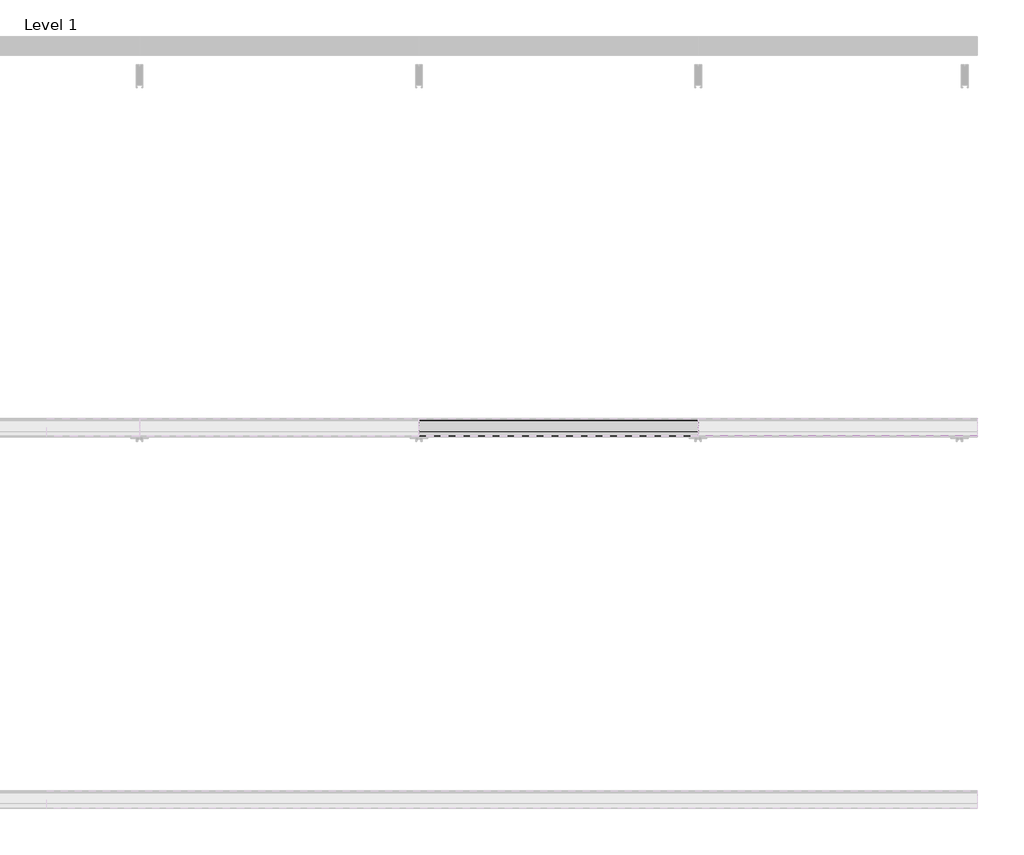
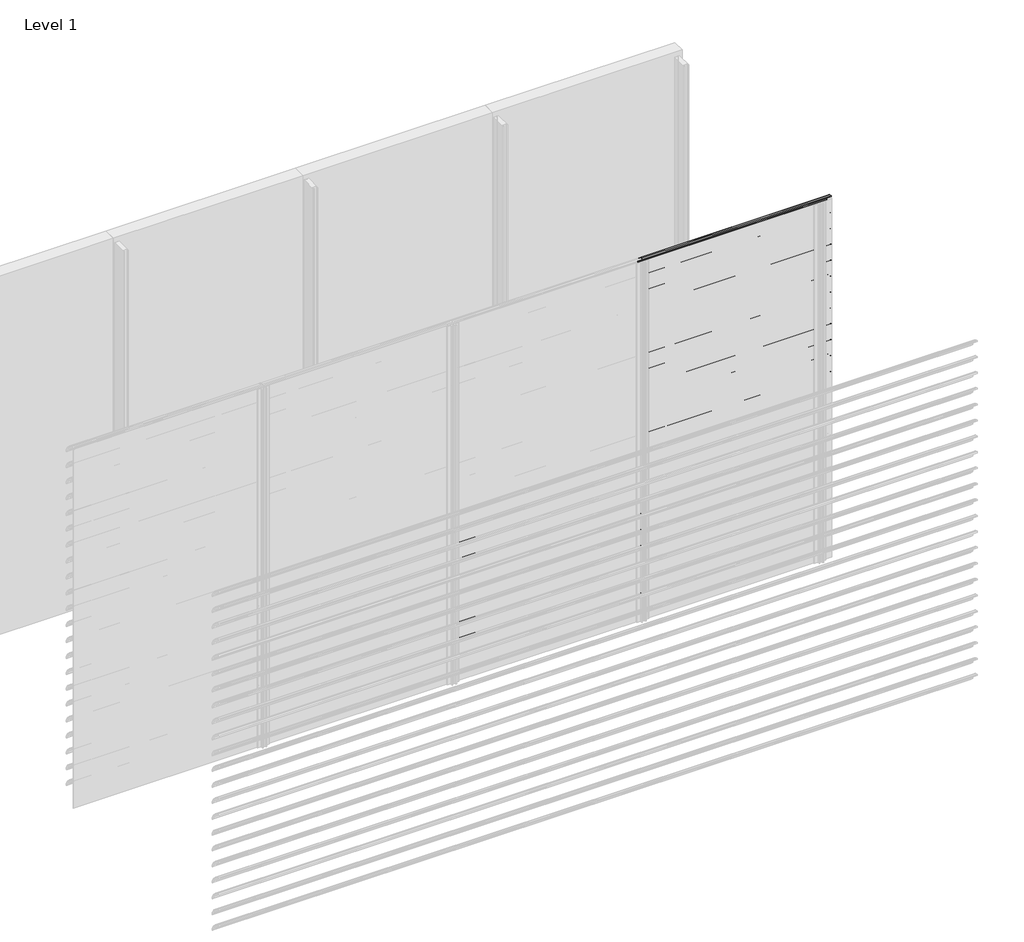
# One storey, part 7 of 57: 20 proxies.
"""IFC4 building model written with IfcOpenShell, lengths in millimetres."""

from ifc_helpers import new_model, si_unit, point, frame, frame_2d, origin, place, context, project, spatial, polyline, circle_curve, trimmed, segment, composite_curve, outline, extrude, element, save

model = new_model("IFC4")

# Units and contexts
model_context = context("Model", 3, world=origin())
ifc_project = project(units=[si_unit("LENGTHUNIT", "METRE", prefix="MILLI")], contexts=[model_context])

# Site, building, storey
site = spatial("IfcSite", under=ifc_project)
building = spatial("IfcBuilding", under=site)
storey = spatial("IfcBuildingStorey", under=building, Name="Level 1", Elevation=0.0)

# Proxies
placement = place(None, origin())
element("IfcBuildingElementProxy", 1, Name="Wall Sweeps", at=placement, inside=storey, context=model_context, shape_type="SweptSolid", body=[
    extrude(outline(composite_curve([segment(trimmed(circle_curve(frame_2d((-53993.7822526, 1154.4913792)), 4.2177474), [point((-53989.6985606, 1155.5462976))], [point((-53993.7822526, 1158.7091266))], False, "CARTESIAN"), True, "CONTINUOUS"), segment(trimmed(circle_curve(frame_2d((-54018.7150834, 1056.2536312)), 105.4456002), [point((-53993.7822526, 1158.7091266))], [point((-53971.7914298, 1150.6832099))], False, "CARTESIAN"), True, "CONTINUOUS"), segment(trimmed(circle_curve(frame_2d((-54061.7199745, 1002.0352476)), 173.7335887), [point((-53971.7914298, 1150.6832099))], [point((-53913.0720121, 1091.9637922))], False, "CARTESIAN"), True, "CONTINUOUS"), segment(trimmed(circle_curve(frame_2d((-54004.9297178, 1040.1860314)), 105.4456002), [point((-53913.0720121, 1091.9637922))], [point((-53903.6249616, 1069.4455765))], False, "CARTESIAN"), True, "CONTINUOUS"), segment(trimmed(circle_curve(frame_2d((-53907.809737, 1068.3307305)), 4.3307305), [point((-53903.6249616, 1069.4455765))], [point((-53909.0769196, 1064.189538))], False, "CARTESIAN"), True, "CONTINUOUS"), segment(polyline([(-53909.0769196, 1064.189538), (-53934.7401984, 1088.9722783)]), True, "CONTINUOUS"), segment(trimmed(circle_curve(frame_2d((-53931.3879574, 1091.2977626)), 4.079877), [point((-53934.7401984, 1088.9722783))], [point((-53930.7310597, 1095.3244091))], False, "CARTESIAN"), True, "CONTINUOUS"), segment(trimmed(circle_curve(frame_2d((-54014.6665585, 1073.2544323)), 86.7885467), [point((-53930.7310597, 1095.3244091))], [point((-53942.3028351, 1121.1683485))], True, "CARTESIAN"), True, "CONTINUOUS"), segment(polyline([(-53942.3028351, 1121.1683485), (-53940.7230099, 1123.9046861)]), True, "CONTINUOUS"), segment(trimmed(circle_curve(frame_2d((-54061.7199745, 1002.0352476)), 171.7335887), [point((-53940.7230099, 1123.9046861))], [point((-53972.7555872, 1148.9289618))], True, "CARTESIAN"), True, "CONTINUOUS"), segment(trimmed(circle_curve(frame_2d((-54018.7150834, 1056.2536312)), 103.4456002), [point((-53972.7555872, 1148.9289618))], [point((-53989.6985606, 1155.5462976))], True, "CARTESIAN"), True, "CONTINUOUS")], self_intersect=False)), frame((3000.0, 0.0, 0.0), z_axis=(1.0, 0.0, 0.0), x_axis=(0.0, 1.0, 0.0)), (0.0, 0.0, 1.0), 1500.0),
])
element("IfcBuildingElementProxy", 2, Name="Wall Sweeps", at=placement, inside=storey, context=model_context, shape_type="SweptSolid", body=[
    extrude(outline(composite_curve([segment(trimmed(circle_curve(frame_2d((-53993.7822526, 1021.4913792)), 4.2177474), [point((-53989.6985606, 1022.5462976))], [point((-53993.7822526, 1025.7091266))], False, "CARTESIAN"), True, "CONTINUOUS"), segment(trimmed(circle_curve(frame_2d((-54018.7150834, 923.2536312)), 105.4456002), [point((-53993.7822526, 1025.7091266))], [point((-53971.7914298, 1017.6832099))], False, "CARTESIAN"), True, "CONTINUOUS"), segment(trimmed(circle_curve(frame_2d((-54061.7199745, 869.0352476)), 173.7335887), [point((-53971.7914298, 1017.6832099))], [point((-53913.0720121, 958.9637922))], False, "CARTESIAN"), True, "CONTINUOUS"), segment(trimmed(circle_curve(frame_2d((-54004.9297178, 907.1860314)), 105.4456002), [point((-53913.0720121, 958.9637922))], [point((-53903.6249616, 936.4455765))], False, "CARTESIAN"), True, "CONTINUOUS"), segment(trimmed(circle_curve(frame_2d((-53907.809737, 935.3307305)), 4.3307305), [point((-53903.6249616, 936.4455765))], [point((-53909.0769196, 931.189538))], False, "CARTESIAN"), True, "CONTINUOUS"), segment(polyline([(-53909.0769196, 931.189538), (-53934.7401984, 955.9722783)]), True, "CONTINUOUS"), segment(trimmed(circle_curve(frame_2d((-53931.3879574, 958.2977626)), 4.079877), [point((-53934.7401984, 955.9722783))], [point((-53930.7310597, 962.3244091))], False, "CARTESIAN"), True, "CONTINUOUS"), segment(trimmed(circle_curve(frame_2d((-54014.6665585, 940.2544323)), 86.7885467), [point((-53930.7310597, 962.3244091))], [point((-53942.3028351, 988.1683485))], True, "CARTESIAN"), True, "CONTINUOUS"), segment(polyline([(-53942.3028351, 988.1683485), (-53940.7230099, 990.9046861)]), True, "CONTINUOUS"), segment(trimmed(circle_curve(frame_2d((-54061.7199745, 869.0352476)), 171.7335887), [point((-53940.7230099, 990.9046861))], [point((-53972.7555872, 1015.9289618))], True, "CARTESIAN"), True, "CONTINUOUS"), segment(trimmed(circle_curve(frame_2d((-54018.7150834, 923.2536312)), 103.4456002), [point((-53972.7555872, 1015.9289618))], [point((-53989.6985606, 1022.5462976))], True, "CARTESIAN"), True, "CONTINUOUS")], self_intersect=False)), frame((3000.0, 0.0, 0.0), z_axis=(1.0, 0.0, 0.0), x_axis=(0.0, 1.0, 0.0)), (0.0, 0.0, 1.0), 1500.0),
])
element("IfcBuildingElementProxy", 3, Name="Wall Sweeps", at=placement, inside=storey, context=model_context, shape_type="SweptSolid", body=[
    extrude(outline(composite_curve([segment(trimmed(circle_curve(frame_2d((-53993.7822526, 888.4913792)), 4.2177474), [point((-53989.6985606, 889.5462976))], [point((-53993.7822526, 892.7091266))], False, "CARTESIAN"), True, "CONTINUOUS"), segment(trimmed(circle_curve(frame_2d((-54018.7150834, 790.2536312)), 105.4456002), [point((-53993.7822526, 892.7091266))], [point((-53971.7914298, 884.6832099))], False, "CARTESIAN"), True, "CONTINUOUS"), segment(trimmed(circle_curve(frame_2d((-54061.7199745, 736.0352476)), 173.7335887), [point((-53971.7914298, 884.6832099))], [point((-53913.0720121, 825.9637922))], False, "CARTESIAN"), True, "CONTINUOUS"), segment(trimmed(circle_curve(frame_2d((-54004.9297178, 774.1860314)), 105.4456002), [point((-53913.0720121, 825.9637922))], [point((-53903.6249616, 803.4455765))], False, "CARTESIAN"), True, "CONTINUOUS"), segment(trimmed(circle_curve(frame_2d((-53907.809737, 802.3307305)), 4.3307305), [point((-53903.6249616, 803.4455765))], [point((-53909.0769196, 798.189538))], False, "CARTESIAN"), True, "CONTINUOUS"), segment(polyline([(-53909.0769196, 798.189538), (-53934.7401984, 822.9722783)]), True, "CONTINUOUS"), segment(trimmed(circle_curve(frame_2d((-53931.3879574, 825.2977626)), 4.079877), [point((-53934.7401984, 822.9722783))], [point((-53930.7310597, 829.3244091))], False, "CARTESIAN"), True, "CONTINUOUS"), segment(trimmed(circle_curve(frame_2d((-54014.6665585, 807.2544323)), 86.7885467), [point((-53930.7310597, 829.3244091))], [point((-53942.3028351, 855.1683485))], True, "CARTESIAN"), True, "CONTINUOUS"), segment(polyline([(-53942.3028351, 855.1683485), (-53940.7230099, 857.9046861)]), True, "CONTINUOUS"), segment(trimmed(circle_curve(frame_2d((-54061.7199745, 736.0352476)), 171.7335887), [point((-53940.7230099, 857.9046861))], [point((-53972.7555872, 882.9289618))], True, "CARTESIAN"), True, "CONTINUOUS"), segment(trimmed(circle_curve(frame_2d((-54018.7150834, 790.2536312)), 103.4456002), [point((-53972.7555872, 882.9289618))], [point((-53989.6985606, 889.5462976))], True, "CARTESIAN"), True, "CONTINUOUS")], self_intersect=False)), frame((3000.0, 0.0, 0.0), z_axis=(1.0, 0.0, 0.0), x_axis=(0.0, 1.0, 0.0)), (0.0, 0.0, 1.0), 1500.0),
])
element("IfcBuildingElementProxy", 4, Name="Wall Sweeps", at=placement, inside=storey, context=model_context, shape_type="SweptSolid", body=[
    extrude(outline(composite_curve([segment(trimmed(circle_curve(frame_2d((-53993.7822526, 755.4913792)), 4.2177474), [point((-53989.6985606, 756.5462976))], [point((-53993.7822526, 759.7091266))], False, "CARTESIAN"), True, "CONTINUOUS"), segment(trimmed(circle_curve(frame_2d((-54018.7150834, 657.2536312)), 105.4456002), [point((-53993.7822526, 759.7091266))], [point((-53971.7914298, 751.6832099))], False, "CARTESIAN"), True, "CONTINUOUS"), segment(trimmed(circle_curve(frame_2d((-54061.7199745, 603.0352476)), 173.7335887), [point((-53971.7914298, 751.6832099))], [point((-53913.0720121, 692.9637922))], False, "CARTESIAN"), True, "CONTINUOUS"), segment(trimmed(circle_curve(frame_2d((-54004.9297178, 641.1860314)), 105.4456002), [point((-53913.0720121, 692.9637922))], [point((-53903.6249616, 670.4455765))], False, "CARTESIAN"), True, "CONTINUOUS"), segment(trimmed(circle_curve(frame_2d((-53907.809737, 669.3307305)), 4.3307305), [point((-53903.6249616, 670.4455765))], [point((-53909.0769196, 665.189538))], False, "CARTESIAN"), True, "CONTINUOUS"), segment(polyline([(-53909.0769196, 665.189538), (-53934.7401984, 689.9722783)]), True, "CONTINUOUS"), segment(trimmed(circle_curve(frame_2d((-53931.3879574, 692.2977626)), 4.079877), [point((-53934.7401984, 689.9722783))], [point((-53930.7310597, 696.3244091))], False, "CARTESIAN"), True, "CONTINUOUS"), segment(trimmed(circle_curve(frame_2d((-54014.6665585, 674.2544323)), 86.7885467), [point((-53930.7310597, 696.3244091))], [point((-53942.3028351, 722.1683485))], True, "CARTESIAN"), True, "CONTINUOUS"), segment(polyline([(-53942.3028351, 722.1683485), (-53940.7230099, 724.9046861)]), True, "CONTINUOUS"), segment(trimmed(circle_curve(frame_2d((-54061.7199745, 603.0352476)), 171.7335887), [point((-53940.7230099, 724.9046861))], [point((-53972.7555872, 749.9289618))], True, "CARTESIAN"), True, "CONTINUOUS"), segment(trimmed(circle_curve(frame_2d((-54018.7150834, 657.2536312)), 103.4456002), [point((-53972.7555872, 749.9289618))], [point((-53989.6985606, 756.5462976))], True, "CARTESIAN"), True, "CONTINUOUS")], self_intersect=False)), frame((3000.0, 0.0, 0.0), z_axis=(1.0, 0.0, 0.0), x_axis=(0.0, 1.0, 0.0)), (0.0, 0.0, 1.0), 1500.0),
])
element("IfcBuildingElementProxy", 5, Name="Wall Sweeps", at=placement, inside=storey, context=model_context, shape_type="SweptSolid", body=[
    extrude(outline(composite_curve([segment(trimmed(circle_curve(frame_2d((-53993.7822526, 622.4913792)), 4.2177474), [point((-53989.6985606, 623.5462976))], [point((-53993.7822526, 626.7091266))], False, "CARTESIAN"), True, "CONTINUOUS"), segment(trimmed(circle_curve(frame_2d((-54018.7150834, 524.2536312)), 105.4456002), [point((-53993.7822526, 626.7091266))], [point((-53971.7914298, 618.6832099))], False, "CARTESIAN"), True, "CONTINUOUS"), segment(trimmed(circle_curve(frame_2d((-54061.7199745, 470.0352476)), 173.7335887), [point((-53971.7914298, 618.6832099))], [point((-53913.0720121, 559.9637922))], False, "CARTESIAN"), True, "CONTINUOUS"), segment(trimmed(circle_curve(frame_2d((-54004.9297178, 508.1860314)), 105.4456002), [point((-53913.0720121, 559.9637922))], [point((-53903.6249616, 537.4455765))], False, "CARTESIAN"), True, "CONTINUOUS"), segment(trimmed(circle_curve(frame_2d((-53907.809737, 536.3307305)), 4.3307305), [point((-53903.6249616, 537.4455765))], [point((-53909.0769196, 532.189538))], False, "CARTESIAN"), True, "CONTINUOUS"), segment(polyline([(-53909.0769196, 532.189538), (-53934.7401984, 556.9722783)]), True, "CONTINUOUS"), segment(trimmed(circle_curve(frame_2d((-53931.3879574, 559.2977626)), 4.079877), [point((-53934.7401984, 556.9722783))], [point((-53930.7310597, 563.3244091))], False, "CARTESIAN"), True, "CONTINUOUS"), segment(trimmed(circle_curve(frame_2d((-54014.6665585, 541.2544323)), 86.7885467), [point((-53930.7310597, 563.3244091))], [point((-53942.3028351, 589.1683485))], True, "CARTESIAN"), True, "CONTINUOUS"), segment(polyline([(-53942.3028351, 589.1683485), (-53940.7230099, 591.9046861)]), True, "CONTINUOUS"), segment(trimmed(circle_curve(frame_2d((-54061.7199745, 470.0352476)), 171.7335887), [point((-53940.7230099, 591.9046861))], [point((-53972.7555872, 616.9289618))], True, "CARTESIAN"), True, "CONTINUOUS"), segment(trimmed(circle_curve(frame_2d((-54018.7150834, 524.2536312)), 103.4456002), [point((-53972.7555872, 616.9289618))], [point((-53989.6985606, 623.5462976))], True, "CARTESIAN"), True, "CONTINUOUS")], self_intersect=False)), frame((3000.0, 0.0, 0.0), z_axis=(1.0, 0.0, 0.0), x_axis=(0.0, 1.0, 0.0)), (0.0, 0.0, 1.0), 1500.0),
])
element("IfcBuildingElementProxy", 6, Name="Wall Sweeps", at=placement, inside=storey, context=model_context, shape_type="SweptSolid", body=[
    extrude(outline(composite_curve([segment(trimmed(circle_curve(frame_2d((-53993.7822526, 489.4913792)), 4.2177474), [point((-53989.6985606, 490.5462976))], [point((-53993.7822526, 493.7091266))], False, "CARTESIAN"), True, "CONTINUOUS"), segment(trimmed(circle_curve(frame_2d((-54018.7150834, 391.2536312)), 105.4456002), [point((-53993.7822526, 493.7091266))], [point((-53971.7914298, 485.6832099))], False, "CARTESIAN"), True, "CONTINUOUS"), segment(trimmed(circle_curve(frame_2d((-54061.7199745, 337.0352476)), 173.7335887), [point((-53971.7914298, 485.6832099))], [point((-53913.0720121, 426.9637922))], False, "CARTESIAN"), True, "CONTINUOUS"), segment(trimmed(circle_curve(frame_2d((-54004.9297178, 375.1860314)), 105.4456002), [point((-53913.0720121, 426.9637922))], [point((-53903.6249616, 404.4455765))], False, "CARTESIAN"), True, "CONTINUOUS"), segment(trimmed(circle_curve(frame_2d((-53907.809737, 403.3307305)), 4.3307305), [point((-53903.6249616, 404.4455765))], [point((-53909.0769196, 399.189538))], False, "CARTESIAN"), True, "CONTINUOUS"), segment(polyline([(-53909.0769196, 399.189538), (-53934.7401984, 423.9722783)]), True, "CONTINUOUS"), segment(trimmed(circle_curve(frame_2d((-53931.3879574, 426.2977626)), 4.079877), [point((-53934.7401984, 423.9722783))], [point((-53930.7310597, 430.3244091))], False, "CARTESIAN"), True, "CONTINUOUS"), segment(trimmed(circle_curve(frame_2d((-54014.6665585, 408.2544323)), 86.7885467), [point((-53930.7310597, 430.3244091))], [point((-53942.3028351, 456.1683485))], True, "CARTESIAN"), True, "CONTINUOUS"), segment(polyline([(-53942.3028351, 456.1683485), (-53940.7230099, 458.9046861)]), True, "CONTINUOUS"), segment(trimmed(circle_curve(frame_2d((-54061.7199745, 337.0352476)), 171.7335887), [point((-53940.7230099, 458.9046861))], [point((-53972.7555872, 483.9289618))], True, "CARTESIAN"), True, "CONTINUOUS"), segment(trimmed(circle_curve(frame_2d((-54018.7150834, 391.2536312)), 103.4456002), [point((-53972.7555872, 483.9289618))], [point((-53989.6985606, 490.5462976))], True, "CARTESIAN"), True, "CONTINUOUS")], self_intersect=False)), frame((3000.0, 0.0, 0.0), z_axis=(1.0, 0.0, 0.0), x_axis=(0.0, 1.0, 0.0)), (0.0, 0.0, 1.0), 1500.0),
])
element("IfcBuildingElementProxy", 7, Name="Wall Sweeps", at=placement, inside=storey, context=model_context, shape_type="SweptSolid", body=[
    extrude(outline(composite_curve([segment(trimmed(circle_curve(frame_2d((-53993.7822526, 356.4913792)), 4.2177474), [point((-53989.6985606, 357.5462976))], [point((-53993.7822526, 360.7091266))], False, "CARTESIAN"), True, "CONTINUOUS"), segment(trimmed(circle_curve(frame_2d((-54018.7150834, 258.2536312)), 105.4456002), [point((-53993.7822526, 360.7091266))], [point((-53971.7914298, 352.6832099))], False, "CARTESIAN"), True, "CONTINUOUS"), segment(trimmed(circle_curve(frame_2d((-54061.7199745, 204.0352476)), 173.7335887), [point((-53971.7914298, 352.6832099))], [point((-53913.0720121, 293.9637922))], False, "CARTESIAN"), True, "CONTINUOUS"), segment(trimmed(circle_curve(frame_2d((-54004.9297178, 242.1860314)), 105.4456002), [point((-53913.0720121, 293.9637922))], [point((-53903.6249616, 271.4455765))], False, "CARTESIAN"), True, "CONTINUOUS"), segment(trimmed(circle_curve(frame_2d((-53907.809737, 270.3307305)), 4.3307305), [point((-53903.6249616, 271.4455765))], [point((-53909.0769196, 266.189538))], False, "CARTESIAN"), True, "CONTINUOUS"), segment(polyline([(-53909.0769196, 266.189538), (-53934.7401984, 290.9722783)]), True, "CONTINUOUS"), segment(trimmed(circle_curve(frame_2d((-53931.3879574, 293.2977626)), 4.079877), [point((-53934.7401984, 290.9722783))], [point((-53930.7310597, 297.3244091))], False, "CARTESIAN"), True, "CONTINUOUS"), segment(trimmed(circle_curve(frame_2d((-54014.6665585, 275.2544323)), 86.7885467), [point((-53930.7310597, 297.3244091))], [point((-53942.3028351, 323.1683485))], True, "CARTESIAN"), True, "CONTINUOUS"), segment(polyline([(-53942.3028351, 323.1683485), (-53940.7230099, 325.9046861)]), True, "CONTINUOUS"), segment(trimmed(circle_curve(frame_2d((-54061.7199745, 204.0352476)), 171.7335887), [point((-53940.7230099, 325.9046861))], [point((-53972.7555872, 350.9289618))], True, "CARTESIAN"), True, "CONTINUOUS"), segment(trimmed(circle_curve(frame_2d((-54018.7150834, 258.2536312)), 103.4456002), [point((-53972.7555872, 350.9289618))], [point((-53989.6985606, 357.5462976))], True, "CARTESIAN"), True, "CONTINUOUS")], self_intersect=False)), frame((3000.0, 0.0, 0.0), z_axis=(1.0, 0.0, 0.0), x_axis=(0.0, 1.0, 0.0)), (0.0, 0.0, 1.0), 1500.0),
])
element("IfcBuildingElementProxy", 8, Name="Wall Sweeps", at=placement, inside=storey, context=model_context, shape_type="SweptSolid", body=[
    extrude(outline(composite_curve([segment(trimmed(circle_curve(frame_2d((-53993.7822526, 223.4913792)), 4.2177474), [point((-53989.6985606, 224.5462976))], [point((-53993.7822526, 227.7091266))], False, "CARTESIAN"), True, "CONTINUOUS"), segment(trimmed(circle_curve(frame_2d((-54018.7150834, 125.2536312)), 105.4456002), [point((-53993.7822526, 227.7091266))], [point((-53971.7914298, 219.6832099))], False, "CARTESIAN"), True, "CONTINUOUS"), segment(trimmed(circle_curve(frame_2d((-54061.7199745, 71.0352476)), 173.7335887), [point((-53971.7914298, 219.6832099))], [point((-53913.0720121, 160.9637922))], False, "CARTESIAN"), True, "CONTINUOUS"), segment(trimmed(circle_curve(frame_2d((-54004.9297178, 109.1860314)), 105.4456002), [point((-53913.0720121, 160.9637922))], [point((-53903.6249616, 138.4455765))], False, "CARTESIAN"), True, "CONTINUOUS"), segment(trimmed(circle_curve(frame_2d((-53907.809737, 137.3307305)), 4.3307305), [point((-53903.6249616, 138.4455765))], [point((-53909.0769196, 133.189538))], False, "CARTESIAN"), True, "CONTINUOUS"), segment(polyline([(-53909.0769196, 133.189538), (-53934.7401984, 157.9722783)]), True, "CONTINUOUS"), segment(trimmed(circle_curve(frame_2d((-53931.3879574, 160.2977626)), 4.079877), [point((-53934.7401984, 157.9722783))], [point((-53930.7310597, 164.3244091))], False, "CARTESIAN"), True, "CONTINUOUS"), segment(trimmed(circle_curve(frame_2d((-54014.6665585, 142.2544323)), 86.7885467), [point((-53930.7310597, 164.3244091))], [point((-53942.3028351, 190.1683485))], True, "CARTESIAN"), True, "CONTINUOUS"), segment(polyline([(-53942.3028351, 190.1683485), (-53940.7230099, 192.9046861)]), True, "CONTINUOUS"), segment(trimmed(circle_curve(frame_2d((-54061.7199745, 71.0352476)), 171.7335887), [point((-53940.7230099, 192.9046861))], [point((-53972.7555872, 217.9289618))], True, "CARTESIAN"), True, "CONTINUOUS"), segment(trimmed(circle_curve(frame_2d((-54018.7150834, 125.2536312)), 103.4456002), [point((-53972.7555872, 217.9289618))], [point((-53989.6985606, 224.5462976))], True, "CARTESIAN"), True, "CONTINUOUS")], self_intersect=False)), frame((3000.0, 0.0, 0.0), z_axis=(1.0, 0.0, 0.0), x_axis=(0.0, 1.0, 0.0)), (0.0, 0.0, 1.0), 1500.0),
])
element("IfcBuildingElementProxy", 9, Name="Wall Sweeps", at=placement, inside=storey, context=model_context, shape_type="SweptSolid", body=[
    extrude(outline(composite_curve([segment(trimmed(circle_curve(frame_2d((-53993.7822526, 3016.4913792)), 4.2177474), [point((-53989.6985606, 3017.5462976))], [point((-53993.7822526, 3020.7091266))], False, "CARTESIAN"), True, "CONTINUOUS"), segment(trimmed(circle_curve(frame_2d((-54018.7150834, 2918.2536312)), 105.4456002), [point((-53993.7822526, 3020.7091266))], [point((-53971.7914298, 3012.6832099))], False, "CARTESIAN"), True, "CONTINUOUS"), segment(trimmed(circle_curve(frame_2d((-54061.7199745, 2864.0352476)), 173.7335887), [point((-53971.7914298, 3012.6832099))], [point((-53913.0720121, 2953.9637922))], False, "CARTESIAN"), True, "CONTINUOUS"), segment(trimmed(circle_curve(frame_2d((-54004.9297178, 2902.1860314)), 105.4456002), [point((-53913.0720121, 2953.9637922))], [point((-53903.6249616, 2931.4455765))], False, "CARTESIAN"), True, "CONTINUOUS"), segment(trimmed(circle_curve(frame_2d((-53907.809737, 2930.3307305)), 4.3307305), [point((-53903.6249616, 2931.4455765))], [point((-53909.0769196, 2926.189538))], False, "CARTESIAN"), True, "CONTINUOUS"), segment(polyline([(-53909.0769196, 2926.189538), (-53934.7401984, 2950.9722783)]), True, "CONTINUOUS"), segment(trimmed(circle_curve(frame_2d((-53931.3879574, 2953.2977626)), 4.079877), [point((-53934.7401984, 2950.9722783))], [point((-53930.7310597, 2957.3244091))], False, "CARTESIAN"), True, "CONTINUOUS"), segment(trimmed(circle_curve(frame_2d((-54014.6665585, 2935.2544323)), 86.7885467), [point((-53930.7310597, 2957.3244091))], [point((-53942.3028351, 2983.1683485))], True, "CARTESIAN"), True, "CONTINUOUS"), segment(polyline([(-53942.3028351, 2983.1683485), (-53940.7230099, 2985.9046861)]), True, "CONTINUOUS"), segment(trimmed(circle_curve(frame_2d((-54061.7199745, 2864.0352476)), 171.7335887), [point((-53940.7230099, 2985.9046861))], [point((-53972.7555872, 3010.9289618))], True, "CARTESIAN"), True, "CONTINUOUS"), segment(trimmed(circle_curve(frame_2d((-54018.7150834, 2918.2536312)), 103.4456002), [point((-53972.7555872, 3010.9289618))], [point((-53989.6985606, 3017.5462976))], True, "CARTESIAN"), True, "CONTINUOUS")], self_intersect=False)), frame((4500.0, 0.0, 0.0), z_axis=(1.0, 0.0, 0.0), x_axis=(0.0, 1.0, 0.0)), (0.0, 0.0, 1.0), 1500.0),
])
element("IfcBuildingElementProxy", 10, Name="Wall Sweeps", at=placement, inside=storey, context=model_context, shape_type="SweptSolid", body=[
    extrude(outline(composite_curve([segment(trimmed(circle_curve(frame_2d((-53993.7822526, 2883.4913792)), 4.2177474), [point((-53989.6985606, 2884.5462976))], [point((-53993.7822526, 2887.7091266))], False, "CARTESIAN"), True, "CONTINUOUS"), segment(trimmed(circle_curve(frame_2d((-54018.7150834, 2785.2536312)), 105.4456002), [point((-53993.7822526, 2887.7091266))], [point((-53971.7914298, 2879.6832099))], False, "CARTESIAN"), True, "CONTINUOUS"), segment(trimmed(circle_curve(frame_2d((-54061.7199745, 2731.0352476)), 173.7335887), [point((-53971.7914298, 2879.6832099))], [point((-53913.0720121, 2820.9637922))], False, "CARTESIAN"), True, "CONTINUOUS"), segment(trimmed(circle_curve(frame_2d((-54004.9297178, 2769.1860314)), 105.4456002), [point((-53913.0720121, 2820.9637922))], [point((-53903.6249616, 2798.4455765))], False, "CARTESIAN"), True, "CONTINUOUS"), segment(trimmed(circle_curve(frame_2d((-53907.809737, 2797.3307305)), 4.3307305), [point((-53903.6249616, 2798.4455765))], [point((-53909.0769196, 2793.189538))], False, "CARTESIAN"), True, "CONTINUOUS"), segment(polyline([(-53909.0769196, 2793.189538), (-53934.7401984, 2817.9722783)]), True, "CONTINUOUS"), segment(trimmed(circle_curve(frame_2d((-53931.3879574, 2820.2977626)), 4.079877), [point((-53934.7401984, 2817.9722783))], [point((-53930.7310597, 2824.3244091))], False, "CARTESIAN"), True, "CONTINUOUS"), segment(trimmed(circle_curve(frame_2d((-54014.6665585, 2802.2544323)), 86.7885467), [point((-53930.7310597, 2824.3244091))], [point((-53942.3028351, 2850.1683485))], True, "CARTESIAN"), True, "CONTINUOUS"), segment(polyline([(-53942.3028351, 2850.1683485), (-53940.7230099, 2852.9046861)]), True, "CONTINUOUS"), segment(trimmed(circle_curve(frame_2d((-54061.7199745, 2731.0352476)), 171.7335887), [point((-53940.7230099, 2852.9046861))], [point((-53972.7555872, 2877.9289618))], True, "CARTESIAN"), True, "CONTINUOUS"), segment(trimmed(circle_curve(frame_2d((-54018.7150834, 2785.2536312)), 103.4456002), [point((-53972.7555872, 2877.9289618))], [point((-53989.6985606, 2884.5462976))], True, "CARTESIAN"), True, "CONTINUOUS")], self_intersect=False)), frame((4500.0, 0.0, 0.0), z_axis=(1.0, 0.0, 0.0), x_axis=(0.0, 1.0, 0.0)), (0.0, 0.0, 1.0), 1500.0),
])
element("IfcBuildingElementProxy", 11, Name="Wall Sweeps", at=placement, inside=storey, context=model_context, shape_type="SweptSolid", body=[
    extrude(outline(composite_curve([segment(trimmed(circle_curve(frame_2d((-53993.7822526, 2750.4913792)), 4.2177474), [point((-53989.6985606, 2751.5462976))], [point((-53993.7822526, 2754.7091266))], False, "CARTESIAN"), True, "CONTINUOUS"), segment(trimmed(circle_curve(frame_2d((-54018.7150834, 2652.2536312)), 105.4456002), [point((-53993.7822526, 2754.7091266))], [point((-53971.7914298, 2746.6832099))], False, "CARTESIAN"), True, "CONTINUOUS"), segment(trimmed(circle_curve(frame_2d((-54061.7199745, 2598.0352476)), 173.7335887), [point((-53971.7914298, 2746.6832099))], [point((-53913.0720121, 2687.9637922))], False, "CARTESIAN"), True, "CONTINUOUS"), segment(trimmed(circle_curve(frame_2d((-54004.9297178, 2636.1860314)), 105.4456002), [point((-53913.0720121, 2687.9637922))], [point((-53903.6249616, 2665.4455765))], False, "CARTESIAN"), True, "CONTINUOUS"), segment(trimmed(circle_curve(frame_2d((-53907.809737, 2664.3307305)), 4.3307305), [point((-53903.6249616, 2665.4455765))], [point((-53909.0769196, 2660.189538))], False, "CARTESIAN"), True, "CONTINUOUS"), segment(polyline([(-53909.0769196, 2660.189538), (-53934.7401984, 2684.9722783)]), True, "CONTINUOUS"), segment(trimmed(circle_curve(frame_2d((-53931.3879574, 2687.2977626)), 4.079877), [point((-53934.7401984, 2684.9722783))], [point((-53930.7310597, 2691.3244091))], False, "CARTESIAN"), True, "CONTINUOUS"), segment(trimmed(circle_curve(frame_2d((-54014.6665585, 2669.2544323)), 86.7885467), [point((-53930.7310597, 2691.3244091))], [point((-53942.3028351, 2717.1683485))], True, "CARTESIAN"), True, "CONTINUOUS"), segment(polyline([(-53942.3028351, 2717.1683485), (-53940.7230099, 2719.9046861)]), True, "CONTINUOUS"), segment(trimmed(circle_curve(frame_2d((-54061.7199745, 2598.0352476)), 171.7335887), [point((-53940.7230099, 2719.9046861))], [point((-53972.7555872, 2744.9289618))], True, "CARTESIAN"), True, "CONTINUOUS"), segment(trimmed(circle_curve(frame_2d((-54018.7150834, 2652.2536312)), 103.4456002), [point((-53972.7555872, 2744.9289618))], [point((-53989.6985606, 2751.5462976))], True, "CARTESIAN"), True, "CONTINUOUS")], self_intersect=False)), frame((4500.0, 0.0, 0.0), z_axis=(1.0, 0.0, 0.0), x_axis=(0.0, 1.0, 0.0)), (0.0, 0.0, 1.0), 1500.0),
])
element("IfcBuildingElementProxy", 12, Name="Wall Sweeps", at=placement, inside=storey, context=model_context, shape_type="SweptSolid", body=[
    extrude(outline(composite_curve([segment(trimmed(circle_curve(frame_2d((-53993.7822526, 2617.4913792)), 4.2177474), [point((-53989.6985606, 2618.5462976))], [point((-53993.7822526, 2621.7091266))], False, "CARTESIAN"), True, "CONTINUOUS"), segment(trimmed(circle_curve(frame_2d((-54018.7150834, 2519.2536312)), 105.4456002), [point((-53993.7822526, 2621.7091266))], [point((-53971.7914298, 2613.6832099))], False, "CARTESIAN"), True, "CONTINUOUS"), segment(trimmed(circle_curve(frame_2d((-54061.7199745, 2465.0352476)), 173.7335887), [point((-53971.7914298, 2613.6832099))], [point((-53913.0720121, 2554.9637922))], False, "CARTESIAN"), True, "CONTINUOUS"), segment(trimmed(circle_curve(frame_2d((-54004.9297178, 2503.1860314)), 105.4456002), [point((-53913.0720121, 2554.9637922))], [point((-53903.6249616, 2532.4455765))], False, "CARTESIAN"), True, "CONTINUOUS"), segment(trimmed(circle_curve(frame_2d((-53907.809737, 2531.3307305)), 4.3307305), [point((-53903.6249616, 2532.4455765))], [point((-53909.0769196, 2527.189538))], False, "CARTESIAN"), True, "CONTINUOUS"), segment(polyline([(-53909.0769196, 2527.189538), (-53934.7401984, 2551.9722783)]), True, "CONTINUOUS"), segment(trimmed(circle_curve(frame_2d((-53931.3879574, 2554.2977626)), 4.079877), [point((-53934.7401984, 2551.9722783))], [point((-53930.7310597, 2558.3244091))], False, "CARTESIAN"), True, "CONTINUOUS"), segment(trimmed(circle_curve(frame_2d((-54014.6665585, 2536.2544323)), 86.7885467), [point((-53930.7310597, 2558.3244091))], [point((-53942.3028351, 2584.1683485))], True, "CARTESIAN"), True, "CONTINUOUS"), segment(polyline([(-53942.3028351, 2584.1683485), (-53940.7230099, 2586.9046861)]), True, "CONTINUOUS"), segment(trimmed(circle_curve(frame_2d((-54061.7199745, 2465.0352476)), 171.7335887), [point((-53940.7230099, 2586.9046861))], [point((-53972.7555872, 2611.9289618))], True, "CARTESIAN"), True, "CONTINUOUS"), segment(trimmed(circle_curve(frame_2d((-54018.7150834, 2519.2536312)), 103.4456002), [point((-53972.7555872, 2611.9289618))], [point((-53989.6985606, 2618.5462976))], True, "CARTESIAN"), True, "CONTINUOUS")], self_intersect=False)), frame((4500.0, 0.0, 0.0), z_axis=(1.0, 0.0, 0.0), x_axis=(0.0, 1.0, 0.0)), (0.0, 0.0, 1.0), 1500.0),
])
element("IfcBuildingElementProxy", 13, Name="Wall Sweeps", at=placement, inside=storey, context=model_context, shape_type="SweptSolid", body=[
    extrude(outline(composite_curve([segment(trimmed(circle_curve(frame_2d((-53993.7822526, 2484.4913792)), 4.2177474), [point((-53989.6985606, 2485.5462976))], [point((-53993.7822526, 2488.7091266))], False, "CARTESIAN"), True, "CONTINUOUS"), segment(trimmed(circle_curve(frame_2d((-54018.7150834, 2386.2536312)), 105.4456002), [point((-53993.7822526, 2488.7091266))], [point((-53971.7914298, 2480.6832099))], False, "CARTESIAN"), True, "CONTINUOUS"), segment(trimmed(circle_curve(frame_2d((-54061.7199745, 2332.0352476)), 173.7335887), [point((-53971.7914298, 2480.6832099))], [point((-53913.0720121, 2421.9637922))], False, "CARTESIAN"), True, "CONTINUOUS"), segment(trimmed(circle_curve(frame_2d((-54004.9297178, 2370.1860314)), 105.4456002), [point((-53913.0720121, 2421.9637922))], [point((-53903.6249616, 2399.4455765))], False, "CARTESIAN"), True, "CONTINUOUS"), segment(trimmed(circle_curve(frame_2d((-53907.809737, 2398.3307305)), 4.3307305), [point((-53903.6249616, 2399.4455765))], [point((-53909.0769196, 2394.189538))], False, "CARTESIAN"), True, "CONTINUOUS"), segment(polyline([(-53909.0769196, 2394.189538), (-53934.7401984, 2418.9722783)]), True, "CONTINUOUS"), segment(trimmed(circle_curve(frame_2d((-53931.3879574, 2421.2977626)), 4.079877), [point((-53934.7401984, 2418.9722783))], [point((-53930.7310597, 2425.3244091))], False, "CARTESIAN"), True, "CONTINUOUS"), segment(trimmed(circle_curve(frame_2d((-54014.6665585, 2403.2544323)), 86.7885467), [point((-53930.7310597, 2425.3244091))], [point((-53942.3028351, 2451.1683485))], True, "CARTESIAN"), True, "CONTINUOUS"), segment(polyline([(-53942.3028351, 2451.1683485), (-53940.7230099, 2453.9046861)]), True, "CONTINUOUS"), segment(trimmed(circle_curve(frame_2d((-54061.7199745, 2332.0352476)), 171.7335887), [point((-53940.7230099, 2453.9046861))], [point((-53972.7555872, 2478.9289618))], True, "CARTESIAN"), True, "CONTINUOUS"), segment(trimmed(circle_curve(frame_2d((-54018.7150834, 2386.2536312)), 103.4456002), [point((-53972.7555872, 2478.9289618))], [point((-53989.6985606, 2485.5462976))], True, "CARTESIAN"), True, "CONTINUOUS")], self_intersect=False)), frame((4500.0, 0.0, 0.0), z_axis=(1.0, 0.0, 0.0), x_axis=(0.0, 1.0, 0.0)), (0.0, 0.0, 1.0), 1500.0),
])
element("IfcBuildingElementProxy", 14, Name="Wall Sweeps", at=placement, inside=storey, context=model_context, shape_type="SweptSolid", body=[
    extrude(outline(composite_curve([segment(trimmed(circle_curve(frame_2d((-53993.7822526, 2351.4913792)), 4.2177474), [point((-53989.6985606, 2352.5462976))], [point((-53993.7822526, 2355.7091266))], False, "CARTESIAN"), True, "CONTINUOUS"), segment(trimmed(circle_curve(frame_2d((-54018.7150834, 2253.2536312)), 105.4456002), [point((-53993.7822526, 2355.7091266))], [point((-53971.7914298, 2347.6832099))], False, "CARTESIAN"), True, "CONTINUOUS"), segment(trimmed(circle_curve(frame_2d((-54061.7199745, 2199.0352476)), 173.7335887), [point((-53971.7914298, 2347.6832099))], [point((-53913.0720121, 2288.9637922))], False, "CARTESIAN"), True, "CONTINUOUS"), segment(trimmed(circle_curve(frame_2d((-54004.9297178, 2237.1860314)), 105.4456002), [point((-53913.0720121, 2288.9637922))], [point((-53903.6249616, 2266.4455765))], False, "CARTESIAN"), True, "CONTINUOUS"), segment(trimmed(circle_curve(frame_2d((-53907.809737, 2265.3307305)), 4.3307305), [point((-53903.6249616, 2266.4455765))], [point((-53909.0769196, 2261.189538))], False, "CARTESIAN"), True, "CONTINUOUS"), segment(polyline([(-53909.0769196, 2261.189538), (-53934.7401984, 2285.9722783)]), True, "CONTINUOUS"), segment(trimmed(circle_curve(frame_2d((-53931.3879574, 2288.2977626)), 4.079877), [point((-53934.7401984, 2285.9722783))], [point((-53930.7310597, 2292.3244091))], False, "CARTESIAN"), True, "CONTINUOUS"), segment(trimmed(circle_curve(frame_2d((-54014.6665585, 2270.2544323)), 86.7885467), [point((-53930.7310597, 2292.3244091))], [point((-53942.3028351, 2318.1683485))], True, "CARTESIAN"), True, "CONTINUOUS"), segment(polyline([(-53942.3028351, 2318.1683485), (-53940.7230099, 2320.9046861)]), True, "CONTINUOUS"), segment(trimmed(circle_curve(frame_2d((-54061.7199745, 2199.0352476)), 171.7335887), [point((-53940.7230099, 2320.9046861))], [point((-53972.7555872, 2345.9289618))], True, "CARTESIAN"), True, "CONTINUOUS"), segment(trimmed(circle_curve(frame_2d((-54018.7150834, 2253.2536312)), 103.4456002), [point((-53972.7555872, 2345.9289618))], [point((-53989.6985606, 2352.5462976))], True, "CARTESIAN"), True, "CONTINUOUS")], self_intersect=False)), frame((4500.0, 0.0, 0.0), z_axis=(1.0, 0.0, 0.0), x_axis=(0.0, 1.0, 0.0)), (0.0, 0.0, 1.0), 1500.0),
])
element("IfcBuildingElementProxy", 15, Name="Wall Sweeps", at=placement, inside=storey, context=model_context, shape_type="SweptSolid", body=[
    extrude(outline(composite_curve([segment(trimmed(circle_curve(frame_2d((-53993.7822526, 2218.4913792)), 4.2177474), [point((-53989.6985606, 2219.5462976))], [point((-53993.7822526, 2222.7091266))], False, "CARTESIAN"), True, "CONTINUOUS"), segment(trimmed(circle_curve(frame_2d((-54018.7150834, 2120.2536312)), 105.4456002), [point((-53993.7822526, 2222.7091266))], [point((-53971.7914298, 2214.6832099))], False, "CARTESIAN"), True, "CONTINUOUS"), segment(trimmed(circle_curve(frame_2d((-54061.7199745, 2066.0352476)), 173.7335887), [point((-53971.7914298, 2214.6832099))], [point((-53913.0720121, 2155.9637922))], False, "CARTESIAN"), True, "CONTINUOUS"), segment(trimmed(circle_curve(frame_2d((-54004.9297178, 2104.1860314)), 105.4456002), [point((-53913.0720121, 2155.9637922))], [point((-53903.6249616, 2133.4455765))], False, "CARTESIAN"), True, "CONTINUOUS"), segment(trimmed(circle_curve(frame_2d((-53907.809737, 2132.3307305)), 4.3307305), [point((-53903.6249616, 2133.4455765))], [point((-53909.0769196, 2128.189538))], False, "CARTESIAN"), True, "CONTINUOUS"), segment(polyline([(-53909.0769196, 2128.189538), (-53934.7401984, 2152.9722783)]), True, "CONTINUOUS"), segment(trimmed(circle_curve(frame_2d((-53931.3879574, 2155.2977626)), 4.079877), [point((-53934.7401984, 2152.9722783))], [point((-53930.7310597, 2159.3244091))], False, "CARTESIAN"), True, "CONTINUOUS"), segment(trimmed(circle_curve(frame_2d((-54014.6665585, 2137.2544323)), 86.7885467), [point((-53930.7310597, 2159.3244091))], [point((-53942.3028351, 2185.1683485))], True, "CARTESIAN"), True, "CONTINUOUS"), segment(polyline([(-53942.3028351, 2185.1683485), (-53940.7230099, 2187.9046861)]), True, "CONTINUOUS"), segment(trimmed(circle_curve(frame_2d((-54061.7199745, 2066.0352476)), 171.7335887), [point((-53940.7230099, 2187.9046861))], [point((-53972.7555872, 2212.9289618))], True, "CARTESIAN"), True, "CONTINUOUS"), segment(trimmed(circle_curve(frame_2d((-54018.7150834, 2120.2536312)), 103.4456002), [point((-53972.7555872, 2212.9289618))], [point((-53989.6985606, 2219.5462976))], True, "CARTESIAN"), True, "CONTINUOUS")], self_intersect=False)), frame((4500.0, 0.0, 0.0), z_axis=(1.0, 0.0, 0.0), x_axis=(0.0, 1.0, 0.0)), (0.0, 0.0, 1.0), 1500.0),
])
element("IfcBuildingElementProxy", 16, Name="Wall Sweeps", at=placement, inside=storey, context=model_context, shape_type="SweptSolid", body=[
    extrude(outline(composite_curve([segment(trimmed(circle_curve(frame_2d((-53993.7822526, 2085.4913792)), 4.2177474), [point((-53989.6985606, 2086.5462976))], [point((-53993.7822526, 2089.7091266))], False, "CARTESIAN"), True, "CONTINUOUS"), segment(trimmed(circle_curve(frame_2d((-54018.7150834, 1987.2536312)), 105.4456002), [point((-53993.7822526, 2089.7091266))], [point((-53971.7914298, 2081.6832099))], False, "CARTESIAN"), True, "CONTINUOUS"), segment(trimmed(circle_curve(frame_2d((-54061.7199745, 1933.0352476)), 173.7335887), [point((-53971.7914298, 2081.6832099))], [point((-53913.0720121, 2022.9637922))], False, "CARTESIAN"), True, "CONTINUOUS"), segment(trimmed(circle_curve(frame_2d((-54004.9297178, 1971.1860314)), 105.4456002), [point((-53913.0720121, 2022.9637922))], [point((-53903.6249616, 2000.4455765))], False, "CARTESIAN"), True, "CONTINUOUS"), segment(trimmed(circle_curve(frame_2d((-53907.809737, 1999.3307305)), 4.3307305), [point((-53903.6249616, 2000.4455765))], [point((-53909.0769196, 1995.189538))], False, "CARTESIAN"), True, "CONTINUOUS"), segment(polyline([(-53909.0769196, 1995.189538), (-53934.7401984, 2019.9722783)]), True, "CONTINUOUS"), segment(trimmed(circle_curve(frame_2d((-53931.3879574, 2022.2977626)), 4.079877), [point((-53934.7401984, 2019.9722783))], [point((-53930.7310597, 2026.3244091))], False, "CARTESIAN"), True, "CONTINUOUS"), segment(trimmed(circle_curve(frame_2d((-54014.6665585, 2004.2544323)), 86.7885467), [point((-53930.7310597, 2026.3244091))], [point((-53942.3028351, 2052.1683485))], True, "CARTESIAN"), True, "CONTINUOUS"), segment(polyline([(-53942.3028351, 2052.1683485), (-53940.7230099, 2054.9046861)]), True, "CONTINUOUS"), segment(trimmed(circle_curve(frame_2d((-54061.7199745, 1933.0352476)), 171.7335887), [point((-53940.7230099, 2054.9046861))], [point((-53972.7555872, 2079.9289618))], True, "CARTESIAN"), True, "CONTINUOUS"), segment(trimmed(circle_curve(frame_2d((-54018.7150834, 1987.2536312)), 103.4456002), [point((-53972.7555872, 2079.9289618))], [point((-53989.6985606, 2086.5462976))], True, "CARTESIAN"), True, "CONTINUOUS")], self_intersect=False)), frame((4500.0, 0.0, 0.0), z_axis=(1.0, 0.0, 0.0), x_axis=(0.0, 1.0, 0.0)), (0.0, 0.0, 1.0), 1500.0),
])
element("IfcBuildingElementProxy", 17, Name="Wall Sweeps", at=placement, inside=storey, context=model_context, shape_type="SweptSolid", body=[
    extrude(outline(composite_curve([segment(trimmed(circle_curve(frame_2d((-53993.7822526, 1952.4913792)), 4.2177474), [point((-53989.6985606, 1953.5462976))], [point((-53993.7822526, 1956.7091266))], False, "CARTESIAN"), True, "CONTINUOUS"), segment(trimmed(circle_curve(frame_2d((-54018.7150834, 1854.2536312)), 105.4456002), [point((-53993.7822526, 1956.7091266))], [point((-53971.7914298, 1948.6832099))], False, "CARTESIAN"), True, "CONTINUOUS"), segment(trimmed(circle_curve(frame_2d((-54061.7199745, 1800.0352476)), 173.7335887), [point((-53971.7914298, 1948.6832099))], [point((-53913.0720121, 1889.9637922))], False, "CARTESIAN"), True, "CONTINUOUS"), segment(trimmed(circle_curve(frame_2d((-54004.9297178, 1838.1860314)), 105.4456002), [point((-53913.0720121, 1889.9637922))], [point((-53903.6249616, 1867.4455765))], False, "CARTESIAN"), True, "CONTINUOUS"), segment(trimmed(circle_curve(frame_2d((-53907.809737, 1866.3307305)), 4.3307305), [point((-53903.6249616, 1867.4455765))], [point((-53909.0769196, 1862.189538))], False, "CARTESIAN"), True, "CONTINUOUS"), segment(polyline([(-53909.0769196, 1862.189538), (-53934.7401984, 1886.9722783)]), True, "CONTINUOUS"), segment(trimmed(circle_curve(frame_2d((-53931.3879574, 1889.2977626)), 4.079877), [point((-53934.7401984, 1886.9722783))], [point((-53930.7310597, 1893.3244091))], False, "CARTESIAN"), True, "CONTINUOUS"), segment(trimmed(circle_curve(frame_2d((-54014.6665585, 1871.2544323)), 86.7885467), [point((-53930.7310597, 1893.3244091))], [point((-53942.3028351, 1919.1683485))], True, "CARTESIAN"), True, "CONTINUOUS"), segment(polyline([(-53942.3028351, 1919.1683485), (-53940.7230099, 1921.9046861)]), True, "CONTINUOUS"), segment(trimmed(circle_curve(frame_2d((-54061.7199745, 1800.0352476)), 171.7335887), [point((-53940.7230099, 1921.9046861))], [point((-53972.7555872, 1946.9289618))], True, "CARTESIAN"), True, "CONTINUOUS"), segment(trimmed(circle_curve(frame_2d((-54018.7150834, 1854.2536312)), 103.4456002), [point((-53972.7555872, 1946.9289618))], [point((-53989.6985606, 1953.5462976))], True, "CARTESIAN"), True, "CONTINUOUS")], self_intersect=False)), frame((4500.0, 0.0, 0.0), z_axis=(1.0, 0.0, 0.0), x_axis=(0.0, 1.0, 0.0)), (0.0, 0.0, 1.0), 1500.0),
])
element("IfcBuildingElementProxy", 18, Name="Wall Sweeps", at=placement, inside=storey, context=model_context, shape_type="SweptSolid", body=[
    extrude(outline(composite_curve([segment(trimmed(circle_curve(frame_2d((-53993.7822526, 1819.4913792)), 4.2177474), [point((-53989.6985606, 1820.5462976))], [point((-53993.7822526, 1823.7091266))], False, "CARTESIAN"), True, "CONTINUOUS"), segment(trimmed(circle_curve(frame_2d((-54018.7150834, 1721.2536312)), 105.4456002), [point((-53993.7822526, 1823.7091266))], [point((-53971.7914298, 1815.6832099))], False, "CARTESIAN"), True, "CONTINUOUS"), segment(trimmed(circle_curve(frame_2d((-54061.7199745, 1667.0352476)), 173.7335887), [point((-53971.7914298, 1815.6832099))], [point((-53913.0720121, 1756.9637922))], False, "CARTESIAN"), True, "CONTINUOUS"), segment(trimmed(circle_curve(frame_2d((-54004.9297178, 1705.1860314)), 105.4456002), [point((-53913.0720121, 1756.9637922))], [point((-53903.6249616, 1734.4455765))], False, "CARTESIAN"), True, "CONTINUOUS"), segment(trimmed(circle_curve(frame_2d((-53907.809737, 1733.3307305)), 4.3307305), [point((-53903.6249616, 1734.4455765))], [point((-53909.0769196, 1729.189538))], False, "CARTESIAN"), True, "CONTINUOUS"), segment(polyline([(-53909.0769196, 1729.189538), (-53934.7401984, 1753.9722783)]), True, "CONTINUOUS"), segment(trimmed(circle_curve(frame_2d((-53931.3879574, 1756.2977626)), 4.079877), [point((-53934.7401984, 1753.9722783))], [point((-53930.7310597, 1760.3244091))], False, "CARTESIAN"), True, "CONTINUOUS"), segment(trimmed(circle_curve(frame_2d((-54014.6665585, 1738.2544323)), 86.7885467), [point((-53930.7310597, 1760.3244091))], [point((-53942.3028351, 1786.1683485))], True, "CARTESIAN"), True, "CONTINUOUS"), segment(polyline([(-53942.3028351, 1786.1683485), (-53940.7230099, 1788.9046861)]), True, "CONTINUOUS"), segment(trimmed(circle_curve(frame_2d((-54061.7199745, 1667.0352476)), 171.7335887), [point((-53940.7230099, 1788.9046861))], [point((-53972.7555872, 1813.9289618))], True, "CARTESIAN"), True, "CONTINUOUS"), segment(trimmed(circle_curve(frame_2d((-54018.7150834, 1721.2536312)), 103.4456002), [point((-53972.7555872, 1813.9289618))], [point((-53989.6985606, 1820.5462976))], True, "CARTESIAN"), True, "CONTINUOUS")], self_intersect=False)), frame((4500.0, 0.0, 0.0), z_axis=(1.0, 0.0, 0.0), x_axis=(0.0, 1.0, 0.0)), (0.0, 0.0, 1.0), 1500.0),
])
element("IfcBuildingElementProxy", 19, Name="Wall Sweeps", at=placement, inside=storey, context=model_context, shape_type="SweptSolid", body=[
    extrude(outline(composite_curve([segment(trimmed(circle_curve(frame_2d((-53993.7822526, 1686.4913792)), 4.2177474), [point((-53989.6985606, 1687.5462976))], [point((-53993.7822526, 1690.7091266))], False, "CARTESIAN"), True, "CONTINUOUS"), segment(trimmed(circle_curve(frame_2d((-54018.7150834, 1588.2536312)), 105.4456002), [point((-53993.7822526, 1690.7091266))], [point((-53971.7914298, 1682.6832099))], False, "CARTESIAN"), True, "CONTINUOUS"), segment(trimmed(circle_curve(frame_2d((-54061.7199745, 1534.0352476)), 173.7335887), [point((-53971.7914298, 1682.6832099))], [point((-53913.0720121, 1623.9637922))], False, "CARTESIAN"), True, "CONTINUOUS"), segment(trimmed(circle_curve(frame_2d((-54004.9297178, 1572.1860314)), 105.4456002), [point((-53913.0720121, 1623.9637922))], [point((-53903.6249616, 1601.4455765))], False, "CARTESIAN"), True, "CONTINUOUS"), segment(trimmed(circle_curve(frame_2d((-53907.809737, 1600.3307305)), 4.3307305), [point((-53903.6249616, 1601.4455765))], [point((-53909.0769196, 1596.189538))], False, "CARTESIAN"), True, "CONTINUOUS"), segment(polyline([(-53909.0769196, 1596.189538), (-53934.7401984, 1620.9722783)]), True, "CONTINUOUS"), segment(trimmed(circle_curve(frame_2d((-53931.3879574, 1623.2977626)), 4.079877), [point((-53934.7401984, 1620.9722783))], [point((-53930.7310597, 1627.3244091))], False, "CARTESIAN"), True, "CONTINUOUS"), segment(trimmed(circle_curve(frame_2d((-54014.6665585, 1605.2544323)), 86.7885467), [point((-53930.7310597, 1627.3244091))], [point((-53942.3028351, 1653.1683485))], True, "CARTESIAN"), True, "CONTINUOUS"), segment(polyline([(-53942.3028351, 1653.1683485), (-53940.7230099, 1655.9046861)]), True, "CONTINUOUS"), segment(trimmed(circle_curve(frame_2d((-54061.7199745, 1534.0352476)), 171.7335887), [point((-53940.7230099, 1655.9046861))], [point((-53972.7555872, 1680.9289618))], True, "CARTESIAN"), True, "CONTINUOUS"), segment(trimmed(circle_curve(frame_2d((-54018.7150834, 1588.2536312)), 103.4456002), [point((-53972.7555872, 1680.9289618))], [point((-53989.6985606, 1687.5462976))], True, "CARTESIAN"), True, "CONTINUOUS")], self_intersect=False)), frame((4500.0, 0.0, 0.0), z_axis=(1.0, 0.0, 0.0), x_axis=(0.0, 1.0, 0.0)), (0.0, 0.0, 1.0), 1500.0),
])
element("IfcBuildingElementProxy", 20, Name="Wall Sweeps", at=placement, inside=storey, context=model_context, shape_type="SweptSolid", body=[
    extrude(outline(composite_curve([segment(trimmed(circle_curve(frame_2d((-53993.7822526, 1553.4913792)), 4.2177474), [point((-53989.6985606, 1554.5462976))], [point((-53993.7822526, 1557.7091266))], False, "CARTESIAN"), True, "CONTINUOUS"), segment(trimmed(circle_curve(frame_2d((-54018.7150834, 1455.2536312)), 105.4456002), [point((-53993.7822526, 1557.7091266))], [point((-53971.7914298, 1549.6832099))], False, "CARTESIAN"), True, "CONTINUOUS"), segment(trimmed(circle_curve(frame_2d((-54061.7199745, 1401.0352476)), 173.7335887), [point((-53971.7914298, 1549.6832099))], [point((-53913.0720121, 1490.9637922))], False, "CARTESIAN"), True, "CONTINUOUS"), segment(trimmed(circle_curve(frame_2d((-54004.9297178, 1439.1860314)), 105.4456002), [point((-53913.0720121, 1490.9637922))], [point((-53903.6249616, 1468.4455765))], False, "CARTESIAN"), True, "CONTINUOUS"), segment(trimmed(circle_curve(frame_2d((-53907.809737, 1467.3307305)), 4.3307305), [point((-53903.6249616, 1468.4455765))], [point((-53909.0769196, 1463.189538))], False, "CARTESIAN"), True, "CONTINUOUS"), segment(polyline([(-53909.0769196, 1463.189538), (-53934.7401984, 1487.9722783)]), True, "CONTINUOUS"), segment(trimmed(circle_curve(frame_2d((-53931.3879574, 1490.2977626)), 4.079877), [point((-53934.7401984, 1487.9722783))], [point((-53930.7310597, 1494.3244091))], False, "CARTESIAN"), True, "CONTINUOUS"), segment(trimmed(circle_curve(frame_2d((-54014.6665585, 1472.2544323)), 86.7885467), [point((-53930.7310597, 1494.3244091))], [point((-53942.3028351, 1520.1683485))], True, "CARTESIAN"), True, "CONTINUOUS"), segment(polyline([(-53942.3028351, 1520.1683485), (-53940.7230099, 1522.9046861)]), True, "CONTINUOUS"), segment(trimmed(circle_curve(frame_2d((-54061.7199745, 1401.0352476)), 171.7335887), [point((-53940.7230099, 1522.9046861))], [point((-53972.7555872, 1547.9289618))], True, "CARTESIAN"), True, "CONTINUOUS"), segment(trimmed(circle_curve(frame_2d((-54018.7150834, 1455.2536312)), 103.4456002), [point((-53972.7555872, 1547.9289618))], [point((-53989.6985606, 1554.5462976))], True, "CARTESIAN"), True, "CONTINUOUS")], self_intersect=False)), frame((4500.0, 0.0, 0.0), z_axis=(1.0, 0.0, 0.0), x_axis=(0.0, 1.0, 0.0)), (0.0, 0.0, 1.0), 1500.0),
])

save(model, "model.ifc")
